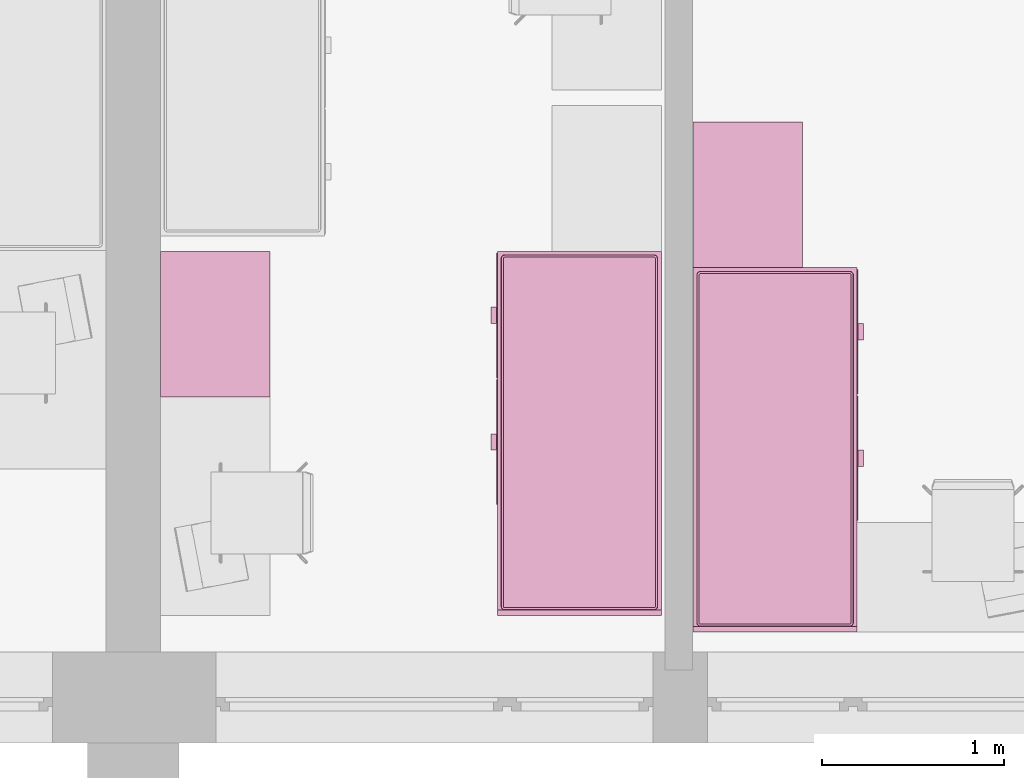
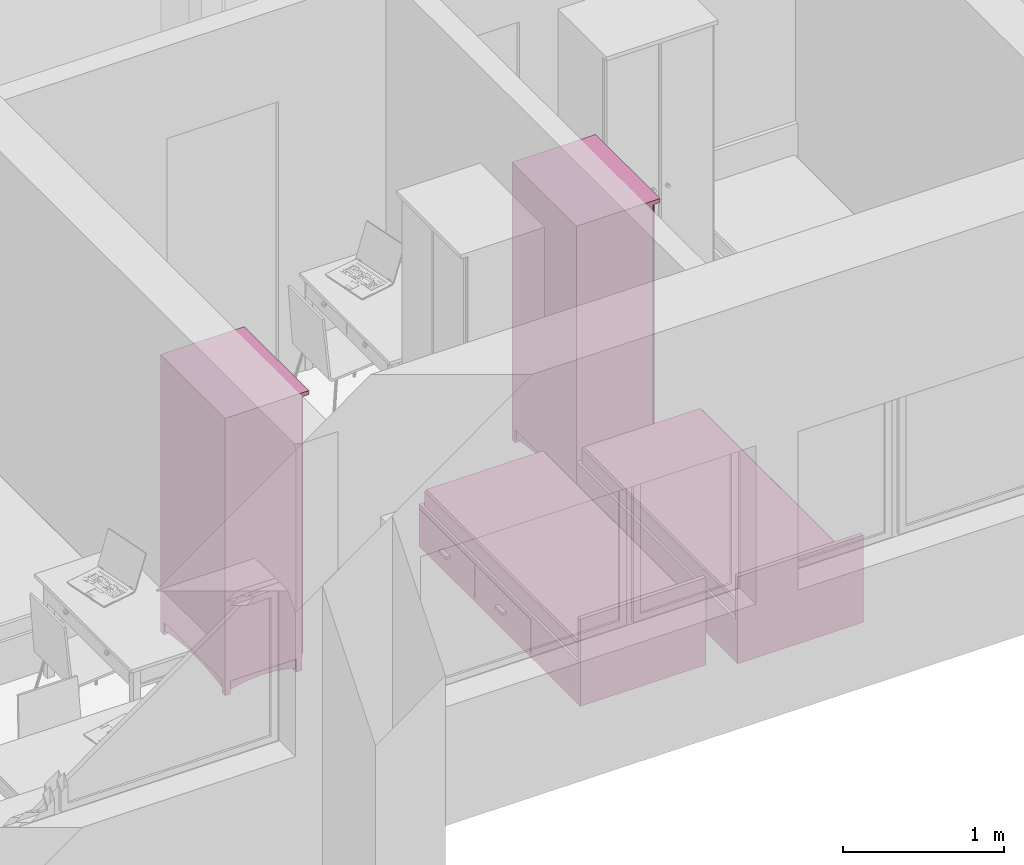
# One storey, part 82 of 165: 4 furnishings.
"""IFC2X3 building model written with IfcOpenShell, lengths in millimetres."""

from ifc_helpers import new_model, entity, si_unit, converted_unit, money_unit, direction, frame, origin_with_axes, place, context, subcontext, project, spatial, faceted_brep, source, transform, mapped, material, material_list, type_object, element, save


model = new_model("IFC2X3")

# Units and contexts
model_context = context("Model", 3, precision=1e-05, world=origin_with_axes(), true_north=direction((0.0, 1.0)))
body_context = subcontext(model_context, "Body", "Model", "MODEL_VIEW")
ifc_project = project(units=[si_unit("LENGTHUNIT", "METRE", prefix="MILLI"), si_unit("AREAUNIT", "SQUARE_METRE"), si_unit("VOLUMEUNIT", "CUBIC_METRE"), converted_unit("PLANEANGLEUNIT", "DEGREE", entity("IfcPlaneAngleMeasure", 0.0174532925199), si_unit("PLANEANGLEUNIT", "RADIAN"), dimensions=[0, 0, 0, 0, 0, 0, 0]), si_unit("SOLIDANGLEUNIT", "STERADIAN"), money_unit("USD"), converted_unit("TIMEUNIT", "Year", entity("IfcTimeMeasure", 31556926.0), si_unit("TIMEUNIT", "SECOND"), dimensions=[0, 0, 0, 0, 0, 0, 0]), si_unit("MASSUNIT", "GRAM"), si_unit("THERMODYNAMICTEMPERATUREUNIT", "DEGREE_CELSIUS"), si_unit("LUMINOUSINTENSITYUNIT", "LUMEN")], contexts=[model_context])

# Site, building, storey
site_placement = place(None, origin_with_axes())
site = spatial("IfcSite", under=ifc_project, at=site_placement, Name="Site", CompositionType="ELEMENT")
building_placement = place(site_placement, origin_with_axes())
building = spatial("IfcBuilding", under=site, at=building_placement, Name="Building", CompositionType="ELEMENT")
storey_placement = place(building_placement, frame((0.0, 0.0, 6300.0), z_axis=(0.0, 0.0, 1.0), x_axis=(1.0, 0.0, 0.0)))
storey = spatial("IfcBuildingStorey", under=building, at=storey_placement, Name="4KORRUS", CompositionType="ELEMENT", Elevation=6300.0)

# Furnishings
ifc_material = material(Name="Background")
ifc_material_list = material_list([ifc_material])
furnishing_element_type_1 = type_object("IfcFurnishingElementType", Name="Bed 19")
shared_shape_1 = source(origin_with_axes(), body_context, "Body", "Brep", [
    faceted_brep([(900.0, 1970.0, 0.0), (0.0, 1970.0, 0.0), (0.0, 2000.0, 0.0), (900.0, 2000.0, 0.0), (900.0, 1970.0, 660.0), (0.0, 1970.0, 660.0), (0.0, 2000.0, 660.0), (900.0, 2000.0, 660.0)], [[[0, 1, 2, 3]], [[1, 0, 4, 5]], [[2, 1, 5, 6]], [[3, 2, 6, 7]], [[0, 3, 7, 4]], [[5, 4, 7, 6]]]),
    faceted_brep([(900.0, 0.0, 0.0), (0.0, 0.0, 0.0), (0.0, 1970.0, 0.0), (900.0, 1970.0, 0.0), (900.0, 0.0, 320.0), (0.0, 0.0, 320.0), (0.0, 1970.0, 320.0), (900.0, 1970.0, 320.0)], [[[0, 1, 2, 3]], [[1, 0, 4, 5]], [[2, 1, 5, 6]], [[3, 2, 6, 7]], [[0, 3, 7, 4]], [[5, 4, 7, 6]]]),
    faceted_brep([(905.0, 10.0, 30.0), (900.0, 10.0, 30.0), (900.0, 695.0, 30.0), (905.0, 695.0, 30.0), (905.0, 10.0, 290.0), (900.0, 10.0, 290.0), (900.0, 695.0, 290.0), (905.0, 695.0, 290.0)], [[[0, 1, 2, 3]], [[1, 0, 4, 5]], [[2, 1, 5, 6]], [[3, 2, 6, 7]], [[0, 3, 7, 4]], [[5, 4, 7, 6]]]),
    faceted_brep([(935.0, 307.5, 150.0), (905.0, 307.5, 150.0), (905.0, 397.5, 150.0), (935.0, 397.5, 150.0), (935.0, 307.5, 170.0), (905.0, 307.5, 170.0), (905.0, 397.5, 170.0), (935.0, 397.5, 170.0)], [[[0, 1, 2, 3]], [[1, 0, 4, 5]], [[2, 1, 5, 6]], [[3, 2, 6, 7]], [[0, 3, 7, 4]], [[5, 4, 7, 6]]]),
    faceted_brep([(905.0, 705.0, 30.0), (900.0, 705.0, 30.0), (900.0, 1390.0, 30.0), (905.0, 1390.0, 30.0), (905.0, 705.0, 290.0), (900.0, 705.0, 290.0), (900.0, 1390.0, 290.0), (905.0, 1390.0, 290.0)], [[[0, 1, 2, 3]], [[1, 0, 4, 5]], [[2, 1, 5, 6]], [[3, 2, 6, 7]], [[0, 3, 7, 4]], [[5, 4, 7, 6]]]),
    faceted_brep([(935.0, 1002.5, 150.0), (905.0, 1002.5, 150.0), (905.0, 1092.5, 150.0), (935.0, 1092.5, 150.0), (935.0, 1002.5, 170.0), (905.0, 1002.5, 170.0), (905.0, 1092.5, 170.0), (935.0, 1092.5, 170.0)], [[[0, 1, 2, 3]], [[1, 0, 4, 5]], [[2, 1, 5, 6]], [[3, 2, 6, 7]], [[0, 3, 7, 4]], [[5, 4, 7, 6]]]),
    faceted_brep([(20.0, 40.0, 350.0), (20.0, 1950.0, 350.0), (21.522, 1957.654, 350.0), (25.858, 1964.142, 350.0), (32.346, 1968.478, 350.0), (40.0, 1970.0, 350.0), (860.0, 1970.0, 350.0), (867.654, 1968.478, 350.0), (874.142, 1964.142, 350.0), (878.478, 1957.654, 350.0), (880.0, 1950.0, 350.0), (880.0, 40.0, 350.0), (878.478, 32.346, 350.0), (874.142, 25.858, 350.0), (867.654, 21.522, 350.0), (860.0, 20.0, 350.0), (40.0, 20.0, 350.0), (32.346, 21.522, 350.0), (25.858, 25.858, 350.0), (21.522, 32.346, 350.0), (20.0, 40.0, 420.0), (20.0, 1950.0, 420.0), (21.522, 1957.654, 420.0), (25.858, 1964.142, 420.0), (32.346, 1968.478, 420.0), (40.0, 1970.0, 420.0), (860.0, 1970.0, 420.0), (867.654, 1968.478, 420.0), (874.142, 1964.142, 420.0), (878.478, 1957.654, 420.0), (880.0, 1950.0, 420.0), (880.0, 40.0, 420.0), (878.478, 32.346, 420.0), (874.142, 25.858, 420.0), (867.654, 21.522, 420.0), (860.0, 20.0, 420.0), (40.0, 20.0, 420.0), (32.346, 21.522, 420.0), (25.858, 25.858, 420.0), (21.522, 32.346, 420.0), (21.522, 40.15, 427.654), (21.522, 1949.85, 427.654), (22.956, 1957.06, 427.654), (26.955, 1963.045, 427.654), (32.94, 1967.044, 427.654), (40.15, 1968.478, 427.654), (859.85, 1968.478, 427.654), (867.06, 1967.044, 427.654), (873.045, 1963.045, 427.654), (877.044, 1957.06, 427.654), (878.478, 1949.85, 427.654), (878.478, 40.15, 427.654), (877.044, 32.94, 427.654), (873.045, 26.955, 427.654), (867.06, 22.956, 427.654), (859.85, 21.522, 427.654), (40.15, 21.522, 427.654), (32.94, 22.956, 427.654), (26.955, 26.955, 427.654), (22.956, 32.94, 427.654), (32.346, 41.216, 438.478), (32.346, 1948.784, 438.478), (33.152, 1952.836, 438.478), (34.759, 1955.241, 438.478), (37.164, 1956.848, 438.478), (41.216, 1957.654, 438.478), (858.784, 1957.654, 438.478), (862.836, 1956.848, 438.478), (865.241, 1955.241, 438.478), (866.848, 1952.836, 438.478), (867.654, 1948.784, 438.478), (867.654, 41.216, 438.478), (866.848, 37.164, 438.478), (865.241, 34.759, 438.478), (862.836, 33.152, 438.478), (858.784, 32.346, 438.478), (41.216, 32.346, 438.478), (37.164, 33.152, 438.478), (34.759, 34.759, 438.478), (33.152, 37.164, 438.478), (40.0, 41.97, 440.0), (40.0, 1948.03, 440.0), (40.327, 1949.673, 440.0), (40.0, 1950.0, 439.924), (41.97, 1950.0, 440.0), (858.03, 1950.0, 440.0), (859.673, 1949.673, 440.0), (860.0, 1950.0, 439.924), (860.0, 1948.03, 440.0), (860.0, 41.97, 440.0), (859.673, 40.327, 440.0), (860.0, 40.0, 439.924), (858.03, 40.0, 440.0), (41.97, 40.0, 440.0), (40.327, 40.327, 440.0), (40.0, 40.0, 439.924)], [[[0, 1, 2, 3, 4, 5, 6, 7, 8, 9, 10, 11, 12, 13, 14, 15, 16, 17, 18, 19]], [[1, 0, 20, 21]], [[2, 1, 21, 22]], [[3, 2, 22, 23]], [[4, 3, 23, 24]], [[5, 4, 24, 25]], [[6, 5, 25, 26]], [[7, 6, 26, 27]], [[8, 7, 27, 28]], [[9, 8, 28, 29]], [[10, 9, 29, 30]], [[11, 10, 30, 31]], [[12, 11, 31, 32]], [[13, 12, 32, 33]], [[14, 13, 33, 34]], [[15, 14, 34, 35]], [[16, 15, 35, 36]], [[17, 16, 36, 37]], [[18, 17, 37, 38]], [[19, 18, 38, 39]], [[0, 19, 39, 20]], [[21, 20, 40, 41]], [[22, 21, 41, 42]], [[23, 22, 42, 43]], [[24, 23, 43, 44]], [[25, 24, 44, 45]], [[26, 25, 45, 46]], [[27, 26, 46, 47]], [[28, 27, 47, 48]], [[29, 28, 48, 49]], [[30, 29, 49, 50]], [[31, 30, 50, 51]], [[32, 31, 51, 52]], [[33, 32, 52, 53]], [[34, 33, 53, 54]], [[35, 34, 54, 55]], [[36, 35, 55, 56]], [[37, 36, 56, 57]], [[38, 37, 57, 58]], [[39, 38, 58, 59]], [[20, 39, 59, 40]], [[41, 40, 60, 61]], [[42, 41, 61, 62]], [[43, 42, 62, 63]], [[44, 43, 63, 64]], [[45, 44, 64, 65]], [[46, 45, 65, 66]], [[47, 46, 66, 67]], [[48, 47, 67, 68]], [[49, 48, 68, 69]], [[50, 49, 69, 70]], [[51, 50, 70, 71]], [[52, 51, 71, 72]], [[53, 52, 72, 73]], [[54, 53, 73, 74]], [[55, 54, 74, 75]], [[56, 55, 75, 76]], [[57, 56, 76, 77]], [[58, 57, 77, 78]], [[59, 58, 78, 79]], [[40, 59, 79, 60]], [[61, 60, 80, 81]], [[62, 61, 81, 82, 83]], [[63, 62, 83]], [[64, 63, 83]], [[65, 64, 83, 82, 84]], [[66, 65, 84, 85]], [[67, 66, 85, 86, 87]], [[68, 67, 87]], [[69, 68, 87]], [[70, 69, 87, 86, 88]], [[71, 70, 88, 89]], [[72, 71, 89, 90, 91]], [[73, 72, 91]], [[74, 73, 91]], [[75, 74, 91, 90, 92]], [[76, 75, 92, 93]], [[77, 76, 93, 94, 95]], [[78, 77, 95]], [[79, 78, 95]], [[60, 79, 95, 94, 80]], [[81, 80, 94, 93, 92, 90, 89, 88, 86, 85, 84, 82]]]),
    faceted_brep([(20.0, 40.0, 350.0), (21.522, 32.346, 350.0), (25.858, 25.858, 350.0), (32.346, 21.522, 350.0), (40.0, 20.0, 350.0), (860.0, 20.0, 350.0), (867.654, 21.522, 350.0), (874.142, 25.858, 350.0), (878.478, 32.346, 350.0), (880.0, 40.0, 350.0), (880.0, 1950.0, 350.0), (878.478, 1957.654, 350.0), (874.142, 1964.142, 350.0), (867.654, 1968.478, 350.0), (860.0, 1970.0, 350.0), (40.0, 1970.0, 350.0), (32.346, 1968.478, 350.0), (25.858, 1964.142, 350.0), (21.522, 1957.654, 350.0), (20.0, 1950.0, 350.0), (20.0, 40.0, 320.0), (21.522, 32.346, 320.0), (25.858, 25.858, 320.0), (32.346, 21.522, 320.0), (40.0, 20.0, 320.0), (860.0, 20.0, 320.0), (867.654, 21.522, 320.0), (874.142, 25.858, 320.0), (878.478, 32.346, 320.0), (880.0, 40.0, 320.0), (880.0, 1950.0, 320.0), (878.478, 1957.654, 320.0), (874.142, 1964.142, 320.0), (867.654, 1968.478, 320.0), (860.0, 1970.0, 320.0), (40.0, 1970.0, 320.0), (32.346, 1968.478, 320.0), (25.858, 1964.142, 320.0), (21.522, 1957.654, 320.0), (20.0, 1950.0, 320.0)], [[[0, 1, 2, 3, 4, 5, 6, 7, 8, 9, 10, 11, 12, 13, 14, 15, 16, 17, 18, 19]], [[0, 20, 21, 1]], [[1, 21, 22, 2]], [[2, 22, 23, 3]], [[3, 23, 24, 4]], [[4, 24, 25, 5]], [[5, 25, 26, 6]], [[6, 26, 27, 7]], [[7, 27, 28, 8]], [[8, 28, 29, 9]], [[9, 29, 30, 10]], [[10, 30, 31, 11]], [[11, 31, 32, 12]], [[12, 32, 33, 13]], [[13, 33, 34, 14]], [[14, 34, 35, 15]], [[15, 35, 36, 16]], [[16, 36, 37, 17]], [[17, 37, 38, 18]], [[18, 38, 39, 19]], [[19, 39, 20, 0]], [[20, 39, 38, 37, 36, 35, 34, 33, 32, 31, 30, 29, 28, 27, 26, 25, 24, 23, 22, 21]]]),
])
furnishing_1_placement = place(storey_placement, frame((-27240.2967033, -17439.2398994, 0.0), z_axis=(0.0, 0.0, 1.0), x_axis=(-1.0, 0.0, 0.0)))
element("IfcFurnishingElement", 1, at=furnishing_1_placement, inside=storey, type_object=furnishing_element_type_1, material=ifc_material_list, Name="FU - 013", context=body_context, shape_type="MappedRepresentation", body=[
    mapped(shared_shape_1, transform((0.0, 0.0, 0.0))),
])
furnishing_element_type_2 = type_object("IfcFurnishingElementType", Name="Cupboard 19")
shared_shape_2 = source(origin_with_axes(), body_context, "Body", "Brep", [
    faceted_brep([(780.0, 600.0, 120.0), (780.0, 600.0, 2050.0), (780.0, 580.0, 2050.0), (780.0, 580.0, 120.0), (20.0, 600.0, 120.0), (20.0, 600.0, 2050.0), (20.0, 580.0, 2050.0), (20.0, 580.0, 120.0)], [[[0, 1, 2, 3]], [[4, 5, 1, 0]], [[1, 5, 6, 2]], [[3, 2, 6, 7]], [[0, 3, 7, 4]], [[7, 6, 5, 4]]]),
    faceted_brep([(0.0, 50.0, 100.0), (0.0, 600.0, 100.0), (20.0, 600.0, 100.0), (20.0, 50.0, 100.0), (0.0, 50.0, 2070.0), (0.0, 600.0, 2070.0), (20.0, 600.0, 2070.0), (20.0, 50.0, 2070.0)], [[[0, 1, 2, 3]], [[0, 4, 5, 1]], [[1, 5, 6, 2]], [[2, 6, 7, 3]], [[3, 7, 4, 0]], [[7, 6, 5, 4]]]),
    faceted_brep([(780.0, 50.0, 100.0), (780.0, 600.0, 100.0), (800.0, 600.0, 100.0), (800.0, 50.0, 100.0), (780.0, 50.0, 2070.0), (780.0, 600.0, 2070.0), (800.0, 600.0, 2070.0), (800.0, 50.0, 2070.0)], [[[0, 1, 2, 3]], [[0, 4, 5, 1]], [[1, 5, 6, 2]], [[2, 6, 7, 3]], [[3, 7, 4, 0]], [[7, 6, 5, 4]]]),
    faceted_brep([(20.0, 50.0, 100.0), (20.0, 600.0, 100.0), (780.0, 600.0, 100.0), (780.0, 50.0, 100.0), (20.0, 50.0, 120.0), (20.0, 600.0, 120.0), (780.0, 600.0, 120.0), (780.0, 50.0, 120.0)], [[[0, 1, 2, 3]], [[0, 4, 5, 1]], [[1, 5, 6, 2]], [[2, 6, 7, 3]], [[3, 7, 4, 0]], [[7, 6, 5, 4]]]),
    faceted_brep([(20.0, 50.0, 2050.0), (20.0, 600.0, 2050.0), (780.0, 600.0, 2050.0), (780.0, 50.0, 2050.0), (20.0, 50.0, 2070.0), (20.0, 600.0, 2070.0), (780.0, 600.0, 2070.0), (780.0, 50.0, 2070.0)], [[[0, 1, 2, 3]], [[0, 4, 5, 1]], [[1, 5, 6, 2]], [[2, 6, 7, 3]], [[3, 7, 4, 0]], [[7, 6, 5, 4]]]),
    faceted_brep([(0.0, 600.0, 2070.0), (0.0, 0.0, 2070.0), (0.0, 0.0, 2100.0), (0.0, 600.0, 2100.0), (800.0, 600.0, 2070.0), (800.0, 0.0, 2070.0), (800.0, 0.0, 2100.0), (800.0, 600.0, 2100.0)], [[[0, 1, 2, 3]], [[0, 4, 5, 1]], [[1, 5, 6, 2]], [[3, 2, 6, 7]], [[4, 0, 3, 7]], [[5, 4, 7, 6]]]),
    faceted_brep([(760.0, 590.0, 25.0), (760.0, 570.0, 25.0), (640.962, 570.0, 45.8), (640.962, 590.0, 45.8), (760.0, 590.0, 100.0), (760.0, 570.0, 100.0), (40.0, 570.0, 100.0), (40.0, 570.0, 25.0), (159.038, 570.0, 45.8), (279.23, 570.0, 58.32), (400.0, 570.0, 62.5), (520.77, 570.0, 58.32), (520.77, 590.0, 58.32), (400.0, 590.0, 62.5), (279.23, 590.0, 58.32), (159.038, 590.0, 45.8), (40.0, 590.0, 25.0), (40.0, 590.0, 100.0)], [[[0, 1, 2, 3]], [[4, 5, 1, 0]], [[1, 5, 6, 7, 8, 9, 10, 11, 2]], [[3, 2, 11, 12]], [[0, 3, 12, 13, 14, 15, 16, 17, 4]], [[17, 6, 5, 4]], [[16, 7, 6, 17]], [[15, 8, 7, 16]], [[14, 9, 8, 15]], [[13, 10, 9, 14]], [[12, 11, 10, 13]]]),
    faceted_brep([(760.0, 80.0, 25.0), (760.0, 60.0, 25.0), (640.962, 60.0, 45.8), (640.962, 80.0, 45.8), (760.0, 80.0, 100.0), (760.0, 60.0, 100.0), (40.0, 60.0, 100.0), (40.0, 60.0, 25.0), (159.038, 60.0, 45.8), (279.23, 60.0, 58.32), (400.0, 60.0, 62.5), (520.77, 60.0, 58.32), (520.77, 80.0, 58.32), (400.0, 80.0, 62.5), (279.23, 80.0, 58.32), (159.038, 80.0, 45.8), (40.0, 80.0, 25.0), (40.0, 80.0, 100.0)], [[[0, 1, 2, 3]], [[4, 5, 1, 0]], [[1, 5, 6, 7, 8, 9, 10, 11, 2]], [[3, 2, 11, 12]], [[0, 3, 12, 13, 14, 15, 16, 17, 4]], [[17, 6, 5, 4]], [[16, 7, 6, 17]], [[15, 8, 7, 16]], [[14, 9, 8, 15]], [[13, 10, 9, 14]], [[12, 11, 10, 13]]]),
    faceted_brep([(790.0, 90.0, 25.0), (770.0, 90.0, 25.0), (770.0, 141.266, 38.072), (790.0, 141.266, 38.072), (790.0, 90.0, 100.0), (770.0, 90.0, 100.0), (770.0, 560.0, 100.0), (770.0, 560.0, 25.0), (770.0, 508.734, 38.072), (770.0, 456.752, 47.92), (770.0, 404.257, 54.508), (770.0, 351.453, 57.808), (770.0, 298.547, 57.808), (770.0, 245.743, 54.508), (770.0, 193.248, 47.92), (790.0, 193.248, 47.92), (790.0, 245.743, 54.508), (790.0, 298.547, 57.808), (790.0, 351.453, 57.808), (790.0, 404.257, 54.508), (790.0, 456.752, 47.92), (790.0, 508.734, 38.072), (790.0, 560.0, 25.0), (790.0, 560.0, 100.0)], [[[0, 1, 2, 3]], [[4, 5, 1, 0]], [[1, 5, 6, 7, 8, 9, 10, 11, 12, 13, 14, 2]], [[3, 2, 14, 15]], [[0, 3, 15, 16, 17, 18, 19, 20, 21, 22, 23, 4]], [[23, 6, 5, 4]], [[22, 7, 6, 23]], [[21, 8, 7, 22]], [[20, 9, 8, 21]], [[19, 10, 9, 20]], [[18, 11, 10, 19]], [[17, 12, 11, 18]], [[16, 13, 12, 17]], [[15, 14, 13, 16]]]),
    faceted_brep([(30.0, 90.0, 25.0), (10.0, 90.0, 25.0), (10.0, 141.266, 38.072), (30.0, 141.266, 38.072), (30.0, 90.0, 100.0), (10.0, 90.0, 100.0), (10.0, 560.0, 100.0), (10.0, 560.0, 25.0), (10.0, 508.734, 38.072), (10.0, 456.752, 47.92), (10.0, 404.257, 54.508), (10.0, 351.453, 57.808), (10.0, 298.547, 57.808), (10.0, 245.743, 54.508), (10.0, 193.248, 47.92), (30.0, 193.248, 47.92), (30.0, 245.743, 54.508), (30.0, 298.547, 57.808), (30.0, 351.453, 57.808), (30.0, 404.257, 54.508), (30.0, 456.752, 47.92), (30.0, 508.734, 38.072), (30.0, 560.0, 25.0), (30.0, 560.0, 100.0)], [[[0, 1, 2, 3]], [[4, 5, 1, 0]], [[1, 5, 6, 7, 8, 9, 10, 11, 12, 13, 14, 2]], [[3, 2, 14, 15]], [[0, 3, 15, 16, 17, 18, 19, 20, 21, 22, 23, 4]], [[23, 6, 5, 4]], [[22, 7, 6, 23]], [[21, 8, 7, 22]], [[20, 9, 8, 21]], [[19, 10, 9, 20]], [[18, 11, 10, 19]], [[17, 12, 11, 18]], [[16, 13, 12, 17]], [[15, 14, 13, 16]]]),
    faceted_brep([(760.0, 560.0, 0.0), (760.0, 560.0, 100.0), (760.0, 600.0, 100.0), (760.0, 600.0, 0.0), (800.0, 560.0, 0.0), (800.0, 560.0, 100.0), (800.0, 600.0, 100.0), (800.0, 600.0, 0.0)], [[[0, 1, 2, 3]], [[4, 5, 1, 0]], [[1, 5, 6, 2]], [[3, 2, 6, 7]], [[0, 3, 7, 4]], [[7, 6, 5, 4]]]),
    faceted_brep([(0.0, 560.0, 0.0), (0.0, 560.0, 100.0), (0.0, 600.0, 100.0), (0.0, 600.0, 0.0), (40.0, 560.0, 0.0), (40.0, 560.0, 100.0), (40.0, 600.0, 100.0), (40.0, 600.0, 0.0)], [[[0, 1, 2, 3]], [[4, 5, 1, 0]], [[1, 5, 6, 2]], [[3, 2, 6, 7]], [[0, 3, 7, 4]], [[7, 6, 5, 4]]]),
    faceted_brep([(760.0, 50.0, 0.0), (760.0, 50.0, 100.0), (760.0, 90.0, 100.0), (760.0, 90.0, 0.0), (800.0, 50.0, 0.0), (800.0, 50.0, 100.0), (800.0, 90.0, 100.0), (800.0, 90.0, 0.0)], [[[0, 1, 2, 3]], [[4, 5, 1, 0]], [[1, 5, 6, 2]], [[3, 2, 6, 7]], [[0, 3, 7, 4]], [[7, 6, 5, 4]]]),
    faceted_brep([(0.0, 50.0, 0.0), (0.0, 50.0, 100.0), (0.0, 90.0, 100.0), (0.0, 90.0, 0.0), (40.0, 50.0, 0.0), (40.0, 50.0, 100.0), (40.0, 90.0, 100.0), (40.0, 90.0, 0.0)], [[[0, 1, 2, 3]], [[4, 5, 1, 0]], [[1, 5, 6, 2]], [[3, 2, 6, 7]], [[0, 3, 7, 4]], [[7, 6, 5, 4]]]),
    faceted_brep([(780.0, 580.0, 587.5), (780.0, 580.0, 607.5), (780.0, 50.0, 607.5), (780.0, 50.0, 587.5), (20.0, 580.0, 587.5), (20.0, 580.0, 607.5), (20.0, 50.0, 607.5), (20.0, 50.0, 587.5)], [[[0, 1, 2, 3]], [[4, 5, 1, 0]], [[1, 5, 6, 2]], [[3, 2, 6, 7]], [[0, 3, 7, 4]], [[7, 6, 5, 4]]]),
    faceted_brep([(780.0, 580.0, 1075.0), (780.0, 580.0, 1095.0), (780.0, 50.0, 1095.0), (780.0, 50.0, 1075.0), (20.0, 580.0, 1075.0), (20.0, 580.0, 1095.0), (20.0, 50.0, 1095.0), (20.0, 50.0, 1075.0)], [[[0, 1, 2, 3]], [[4, 5, 1, 0]], [[1, 5, 6, 2]], [[3, 2, 6, 7]], [[0, 3, 7, 4]], [[7, 6, 5, 4]]]),
    faceted_brep([(780.0, 580.0, 1562.5), (780.0, 580.0, 1582.5), (780.0, 50.0, 1582.5), (780.0, 50.0, 1562.5), (20.0, 580.0, 1562.5), (20.0, 580.0, 1582.5), (20.0, 50.0, 1582.5), (20.0, 50.0, 1562.5)], [[[0, 1, 2, 3]], [[4, 5, 1, 0]], [[1, 5, 6, 2]], [[3, 2, 6, 7]], [[0, 3, 7, 4]], [[7, 6, 5, 4]]]),
    faceted_brep([(789.5, 50.0, 110.5), (400.5, 50.0, 110.5), (400.5, 50.0, 2059.5), (789.5, 50.0, 2059.5), (789.5, 40.0, 110.5), (400.5, 40.0, 110.5), (400.5, 40.0, 2059.5), (789.5, 40.0, 2059.5), (779.5, 30.0, 120.5), (410.5, 30.0, 120.5), (410.5, 30.0, 2049.5), (779.5, 30.0, 2049.5)], [[[0, 1, 2, 3]], [[0, 4, 5, 1]], [[1, 5, 6, 2]], [[2, 6, 7, 3]], [[3, 7, 4, 0]], [[4, 8, 9, 5]], [[5, 9, 10, 6]], [[6, 10, 11, 7]], [[7, 11, 8, 4]], [[10, 9, 8, 11]]]),
    faceted_brep([(399.5, 50.0, 110.5), (10.5, 50.0, 110.5), (10.5, 50.0, 2059.5), (399.5, 50.0, 2059.5), (399.5, 40.0, 110.5), (10.5, 40.0, 110.5), (10.5, 40.0, 2059.5), (399.5, 40.0, 2059.5), (389.5, 30.0, 120.5), (20.5, 30.0, 120.5), (20.5, 30.0, 2049.5), (389.5, 30.0, 2049.5)], [[[0, 1, 2, 3]], [[0, 4, 5, 1]], [[1, 5, 6, 2]], [[2, 6, 7, 3]], [[3, 7, 4, 0]], [[4, 8, 9, 5]], [[5, 9, 10, 6]], [[6, 10, 11, 7]], [[7, 11, 8, 4]], [[10, 9, 8, 11]]]),
    faceted_brep([(339.608, 30.0, 954.0), (338.0, 30.0, 960.0), (339.608, 30.0, 966.0), (344.0, 30.0, 970.392), (350.0, 30.0, 972.0), (356.0, 30.0, 970.392), (360.392, 30.0, 966.0), (362.0, 30.0, 960.0), (360.392, 30.0, 954.0), (356.0, 30.0, 949.608), (350.0, 30.0, 948.0), (344.0, 30.0, 949.608), (339.608, 5.0, 954.0), (338.0, 5.0, 960.0), (339.608, 5.0, 966.0), (344.0, 5.0, 970.392), (350.0, 5.0, 972.0), (356.0, 5.0, 970.392), (360.392, 5.0, 966.0), (362.0, 5.0, 960.0), (360.392, 5.0, 954.0), (356.0, 5.0, 949.608), (350.0, 5.0, 948.0), (344.0, 5.0, 949.608)], [[[0, 1, 2, 3, 4, 5, 6, 7, 8, 9, 10, 11]], [[0, 12, 13, 1]], [[1, 13, 14, 2]], [[2, 14, 15, 3]], [[3, 15, 16, 4]], [[4, 16, 17, 5]], [[5, 17, 18, 6]], [[6, 18, 19, 7]], [[7, 19, 20, 8]], [[8, 20, 21, 9]], [[9, 21, 22, 10]], [[10, 22, 23, 11]], [[11, 23, 12, 0]], [[12, 23, 22, 21, 20, 19, 18, 17, 16, 15, 14, 13]]]),
    faceted_brep([(460.392, 30.0, 954.0), (456.0, 30.0, 949.608), (450.0, 30.0, 948.0), (444.0, 30.0, 949.608), (439.608, 30.0, 954.0), (438.0, 30.0, 960.0), (439.608, 30.0, 966.0), (444.0, 30.0, 970.392), (450.0, 30.0, 972.0), (456.0, 30.0, 970.392), (460.392, 30.0, 966.0), (462.0, 30.0, 960.0), (460.392, 5.0, 954.0), (456.0, 5.0, 949.608), (450.0, 5.0, 948.0), (444.0, 5.0, 949.608), (439.608, 5.0, 954.0), (438.0, 5.0, 960.0), (439.608, 5.0, 966.0), (444.0, 5.0, 970.392), (450.0, 5.0, 972.0), (456.0, 5.0, 970.392), (460.392, 5.0, 966.0), (462.0, 5.0, 960.0)], [[[0, 1, 2, 3, 4, 5, 6, 7, 8, 9, 10, 11]], [[1, 0, 12, 13]], [[2, 1, 13, 14]], [[3, 2, 14, 15]], [[4, 3, 15, 16]], [[5, 4, 16, 17]], [[6, 5, 17, 18]], [[7, 6, 18, 19]], [[8, 7, 19, 20]], [[9, 8, 20, 21]], [[10, 9, 21, 22]], [[11, 10, 22, 23]], [[0, 11, 23, 12]], [[12, 23, 22, 21, 20, 19, 18, 17, 16, 15, 14, 13]]]),
])
for number, where, z_axis, x_axis, name in (
    (2, (-29390.2967033, -18239.2398994, 0.0), (0.0, 0.0, 1.0), (0.0, 1.0, 0.0), "FU - 014"),
    (3, (-26465.2967033, -17529.2398994, 0.0), (0.0, 0.0, 1.0), (0.0, 1.0, 0.0), "FU - 014"),
):
    element("IfcFurnishingElement", number, at=place(storey_placement, frame(where, z_axis=z_axis, x_axis=x_axis)), inside=storey, type_object=furnishing_element_type_2, material=ifc_material_list, Name=name, context=body_context, shape_type="MappedRepresentation", body=[
        mapped(shared_shape_2, transform((0.0, 0.0, 0.0))),
    ])
shared_shape_3 = source(origin_with_axes(), body_context, "Body", "Brep", [
    faceted_brep([(-900.0, 1970.0, 0.0), (-900.0, 2000.0, 0.0), (0.0, 2000.0, 0.0), (0.0, 1970.0, 0.0), (-900.0, 1970.0, 660.0), (-900.0, 2000.0, 660.0), (0.0, 2000.0, 660.0), (0.0, 1970.0, 660.0)], [[[0, 1, 2, 3]], [[0, 4, 5, 1]], [[1, 5, 6, 2]], [[2, 6, 7, 3]], [[3, 7, 4, 0]], [[7, 6, 5, 4]]]),
    faceted_brep([(-900.0, 0.0, 0.0), (-900.0, 1970.0, 0.0), (0.0, 1970.0, 0.0), (0.0, 0.0, 0.0), (-900.0, 0.0, 320.0), (-900.0, 1970.0, 320.0), (0.0, 1970.0, 320.0), (0.0, 0.0, 320.0)], [[[0, 1, 2, 3]], [[0, 4, 5, 1]], [[1, 5, 6, 2]], [[2, 6, 7, 3]], [[3, 7, 4, 0]], [[7, 6, 5, 4]]]),
    faceted_brep([(-905.0, 10.0, 30.0), (-905.0, 695.0, 30.0), (-900.0, 695.0, 30.0), (-900.0, 10.0, 30.0), (-905.0, 10.0, 290.0), (-905.0, 695.0, 290.0), (-900.0, 695.0, 290.0), (-900.0, 10.0, 290.0)], [[[0, 1, 2, 3]], [[0, 4, 5, 1]], [[1, 5, 6, 2]], [[2, 6, 7, 3]], [[3, 7, 4, 0]], [[7, 6, 5, 4]]]),
    faceted_brep([(-935.0, 307.5, 150.0), (-935.0, 397.5, 150.0), (-905.0, 397.5, 150.0), (-905.0, 307.5, 150.0), (-935.0, 307.5, 170.0), (-935.0, 397.5, 170.0), (-905.0, 397.5, 170.0), (-905.0, 307.5, 170.0)], [[[0, 1, 2, 3]], [[0, 4, 5, 1]], [[1, 5, 6, 2]], [[2, 6, 7, 3]], [[3, 7, 4, 0]], [[7, 6, 5, 4]]]),
    faceted_brep([(-905.0, 705.0, 30.0), (-905.0, 1390.0, 30.0), (-900.0, 1390.0, 30.0), (-900.0, 705.0, 30.0), (-905.0, 705.0, 290.0), (-905.0, 1390.0, 290.0), (-900.0, 1390.0, 290.0), (-900.0, 705.0, 290.0)], [[[0, 1, 2, 3]], [[0, 4, 5, 1]], [[1, 5, 6, 2]], [[2, 6, 7, 3]], [[3, 7, 4, 0]], [[7, 6, 5, 4]]]),
    faceted_brep([(-935.0, 1002.5, 150.0), (-935.0, 1092.5, 150.0), (-905.0, 1092.5, 150.0), (-905.0, 1002.5, 150.0), (-935.0, 1002.5, 170.0), (-935.0, 1092.5, 170.0), (-905.0, 1092.5, 170.0), (-905.0, 1002.5, 170.0)], [[[0, 1, 2, 3]], [[0, 4, 5, 1]], [[1, 5, 6, 2]], [[2, 6, 7, 3]], [[3, 7, 4, 0]], [[7, 6, 5, 4]]]),
    faceted_brep([(-20.0, 40.0, 350.0), (-21.522, 32.346, 350.0), (-25.858, 25.858, 350.0), (-32.346, 21.522, 350.0), (-40.0, 20.0, 350.0), (-860.0, 20.0, 350.0), (-867.654, 21.522, 350.0), (-874.142, 25.858, 350.0), (-878.478, 32.346, 350.0), (-880.0, 40.0, 350.0), (-880.0, 1950.0, 350.0), (-878.478, 1957.654, 350.0), (-874.142, 1964.142, 350.0), (-867.654, 1968.478, 350.0), (-860.0, 1970.0, 350.0), (-40.0, 1970.0, 350.0), (-32.346, 1968.478, 350.0), (-25.858, 1964.142, 350.0), (-21.522, 1957.654, 350.0), (-20.0, 1950.0, 350.0), (-20.0, 40.0, 420.0), (-21.522, 32.346, 420.0), (-25.858, 25.858, 420.0), (-32.346, 21.522, 420.0), (-40.0, 20.0, 420.0), (-860.0, 20.0, 420.0), (-867.654, 21.522, 420.0), (-874.142, 25.858, 420.0), (-878.478, 32.346, 420.0), (-880.0, 40.0, 420.0), (-880.0, 1950.0, 420.0), (-878.478, 1957.654, 420.0), (-874.142, 1964.142, 420.0), (-867.654, 1968.478, 420.0), (-860.0, 1970.0, 420.0), (-40.0, 1970.0, 420.0), (-32.346, 1968.478, 420.0), (-25.858, 1964.142, 420.0), (-21.522, 1957.654, 420.0), (-20.0, 1950.0, 420.0), (-21.522, 40.15, 427.654), (-22.956, 32.94, 427.654), (-26.955, 26.955, 427.654), (-32.94, 22.956, 427.654), (-40.15, 21.522, 427.654), (-859.85, 21.522, 427.654), (-867.06, 22.956, 427.654), (-873.045, 26.955, 427.654), (-877.044, 32.94, 427.654), (-878.478, 40.15, 427.654), (-878.478, 1949.85, 427.654), (-877.044, 1957.06, 427.654), (-873.045, 1963.045, 427.654), (-867.06, 1967.044, 427.654), (-859.85, 1968.478, 427.654), (-40.15, 1968.478, 427.654), (-32.94, 1967.044, 427.654), (-26.955, 1963.045, 427.654), (-22.956, 1957.06, 427.654), (-21.522, 1949.85, 427.654), (-32.346, 41.216, 438.478), (-33.152, 37.164, 438.478), (-34.759, 34.759, 438.478), (-37.164, 33.152, 438.478), (-41.216, 32.346, 438.478), (-858.784, 32.346, 438.478), (-862.836, 33.152, 438.478), (-865.241, 34.759, 438.478), (-866.848, 37.164, 438.478), (-867.654, 41.216, 438.478), (-867.654, 1948.784, 438.478), (-866.848, 1952.836, 438.478), (-865.241, 1955.241, 438.478), (-862.836, 1956.848, 438.478), (-858.784, 1957.654, 438.478), (-41.216, 1957.654, 438.478), (-37.164, 1956.848, 438.478), (-34.759, 1955.241, 438.478), (-33.152, 1952.836, 438.478), (-32.346, 1948.784, 438.478), (-40.0, 41.97, 440.0), (-40.327, 40.327, 440.0), (-40.0, 40.0, 439.924), (-41.97, 40.0, 440.0), (-858.03, 40.0, 440.0), (-859.673, 40.327, 440.0), (-860.0, 40.0, 439.924), (-860.0, 41.97, 440.0), (-860.0, 1948.03, 440.0), (-859.673, 1949.673, 440.0), (-860.0, 1950.0, 439.924), (-858.03, 1950.0, 440.0), (-41.97, 1950.0, 440.0), (-40.327, 1949.673, 440.0), (-40.0, 1950.0, 439.924), (-40.0, 1948.03, 440.0)], [[[0, 1, 2, 3, 4, 5, 6, 7, 8, 9, 10, 11, 12, 13, 14, 15, 16, 17, 18, 19]], [[0, 20, 21, 1]], [[1, 21, 22, 2]], [[2, 22, 23, 3]], [[3, 23, 24, 4]], [[4, 24, 25, 5]], [[5, 25, 26, 6]], [[6, 26, 27, 7]], [[7, 27, 28, 8]], [[8, 28, 29, 9]], [[9, 29, 30, 10]], [[10, 30, 31, 11]], [[11, 31, 32, 12]], [[12, 32, 33, 13]], [[13, 33, 34, 14]], [[14, 34, 35, 15]], [[15, 35, 36, 16]], [[16, 36, 37, 17]], [[17, 37, 38, 18]], [[18, 38, 39, 19]], [[19, 39, 20, 0]], [[20, 40, 41, 21]], [[21, 41, 42, 22]], [[22, 42, 43, 23]], [[23, 43, 44, 24]], [[24, 44, 45, 25]], [[25, 45, 46, 26]], [[26, 46, 47, 27]], [[27, 47, 48, 28]], [[28, 48, 49, 29]], [[29, 49, 50, 30]], [[30, 50, 51, 31]], [[31, 51, 52, 32]], [[32, 52, 53, 33]], [[33, 53, 54, 34]], [[34, 54, 55, 35]], [[35, 55, 56, 36]], [[36, 56, 57, 37]], [[37, 57, 58, 38]], [[38, 58, 59, 39]], [[39, 59, 40, 20]], [[40, 60, 61, 41]], [[41, 61, 62, 42]], [[42, 62, 63, 43]], [[43, 63, 64, 44]], [[44, 64, 65, 45]], [[45, 65, 66, 46]], [[46, 66, 67, 47]], [[47, 67, 68, 48]], [[48, 68, 69, 49]], [[49, 69, 70, 50]], [[50, 70, 71, 51]], [[51, 71, 72, 52]], [[52, 72, 73, 53]], [[53, 73, 74, 54]], [[54, 74, 75, 55]], [[55, 75, 76, 56]], [[56, 76, 77, 57]], [[57, 77, 78, 58]], [[58, 78, 79, 59]], [[59, 79, 60, 40]], [[60, 80, 81, 82, 61]], [[61, 82, 62]], [[62, 82, 63]], [[63, 82, 81, 83, 64]], [[64, 83, 84, 65]], [[65, 84, 85, 86, 66]], [[66, 86, 67]], [[67, 86, 68]], [[68, 86, 85, 87, 69]], [[69, 87, 88, 70]], [[70, 88, 89, 90, 71]], [[71, 90, 72]], [[72, 90, 73]], [[73, 90, 89, 91, 74]], [[74, 91, 92, 75]], [[75, 92, 93, 94, 76]], [[76, 94, 77]], [[77, 94, 78]], [[78, 94, 93, 95, 79]], [[79, 95, 80, 60]], [[95, 93, 92, 91, 89, 88, 87, 85, 84, 83, 81, 80]]]),
    faceted_brep([(-20.0, 40.0, 350.0), (-20.0, 1950.0, 350.0), (-21.522, 1957.654, 350.0), (-25.858, 1964.142, 350.0), (-32.346, 1968.478, 350.0), (-40.0, 1970.0, 350.0), (-860.0, 1970.0, 350.0), (-867.654, 1968.478, 350.0), (-874.142, 1964.142, 350.0), (-878.478, 1957.654, 350.0), (-880.0, 1950.0, 350.0), (-880.0, 40.0, 350.0), (-878.478, 32.346, 350.0), (-874.142, 25.858, 350.0), (-867.654, 21.522, 350.0), (-860.0, 20.0, 350.0), (-40.0, 20.0, 350.0), (-32.346, 21.522, 350.0), (-25.858, 25.858, 350.0), (-21.522, 32.346, 350.0), (-20.0, 40.0, 320.0), (-20.0, 1950.0, 320.0), (-21.522, 1957.654, 320.0), (-25.858, 1964.142, 320.0), (-32.346, 1968.478, 320.0), (-40.0, 1970.0, 320.0), (-860.0, 1970.0, 320.0), (-867.654, 1968.478, 320.0), (-874.142, 1964.142, 320.0), (-878.478, 1957.654, 320.0), (-880.0, 1950.0, 320.0), (-880.0, 40.0, 320.0), (-878.478, 32.346, 320.0), (-874.142, 25.858, 320.0), (-867.654, 21.522, 320.0), (-860.0, 20.0, 320.0), (-40.0, 20.0, 320.0), (-32.346, 21.522, 320.0), (-25.858, 25.858, 320.0), (-21.522, 32.346, 320.0)], [[[0, 1, 2, 3, 4, 5, 6, 7, 8, 9, 10, 11, 12, 13, 14, 15, 16, 17, 18, 19]], [[1, 0, 20, 21]], [[2, 1, 21, 22]], [[3, 2, 22, 23]], [[4, 3, 23, 24]], [[5, 4, 24, 25]], [[6, 5, 25, 26]], [[7, 6, 26, 27]], [[8, 7, 27, 28]], [[9, 8, 28, 29]], [[10, 9, 29, 30]], [[11, 10, 30, 31]], [[12, 11, 31, 32]], [[13, 12, 32, 33]], [[14, 13, 33, 34]], [[15, 14, 34, 35]], [[16, 15, 35, 36]], [[17, 16, 36, 37]], [[18, 17, 37, 38]], [[19, 18, 38, 39]], [[0, 19, 39, 20]], [[20, 39, 38, 37, 36, 35, 34, 33, 32, 31, 30, 29, 28, 27, 26, 25, 24, 23, 22, 21]]]),
])
furnishing_2_placement = place(storey_placement, frame((-27065.2967033, -17529.2398994, 0.0), z_axis=(0.0, 0.0, 1.0), x_axis=(-1.0, 0.0, 0.0)))
element("IfcFurnishingElement", 4, at=furnishing_2_placement, inside=storey, type_object=furnishing_element_type_1, material=ifc_material_list, Name="FU - 013", context=body_context, shape_type="MappedRepresentation", body=[
    mapped(shared_shape_3, transform((0.0, 0.0, 0.0))),
])

save(model, "model.ifc")
